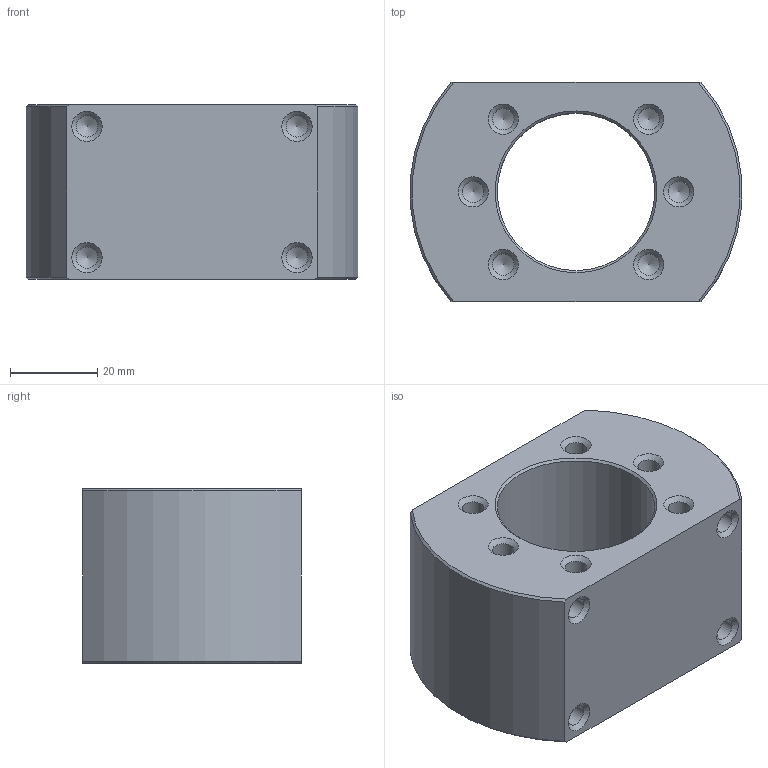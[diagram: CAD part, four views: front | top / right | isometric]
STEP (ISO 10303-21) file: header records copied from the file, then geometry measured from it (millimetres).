
FILE_DESCRIPTION(('STEP AP203'), '1');
FILE_NAME('沓劌錪 HSFU-2005', '', ('UNSPECIFIED'), ('UNSPECIFIED'), 'ASCON STEP Converter 1.6', 'ASCON Math Kernel', '');
FILE_SCHEMA(('CONFIG_CONTROL_DESIGN'));
Length unit declared in the file: millimetre
Bounding box: 75.76 x 50 x 40 mm (x, y, z)
Volume: 95811.3 mm3; surface area: 21045.8 mm2
Topology: 1 solids, 1 shells, 43 faces, 101 edges, 60 vertices
Faces by surface type: cone 26, cylinder 13, plane 4
Full cylindrical faces by diameter (mm): 4.917 x10, 36 x1
Entity records: 1402 total; most frequent: CARTESIAN_POINT 216, DIRECTION 180, ORIENTED_EDGE 116, AXIS2_PLACEMENT_3D 86, EDGE_LOOP 78, EDGE_CURVE 58, FACE_OUTER_BOUND 56, VERTEX_POINT 50
